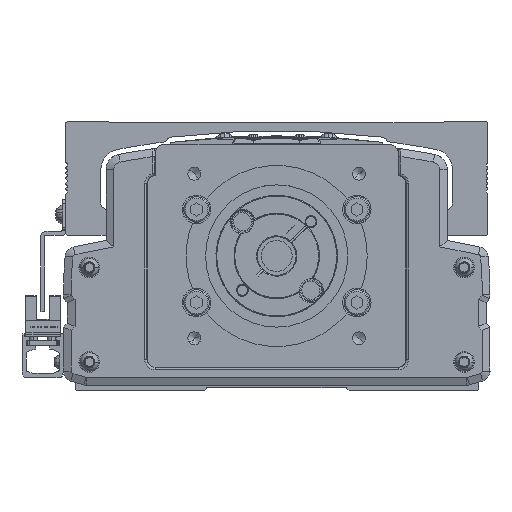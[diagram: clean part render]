
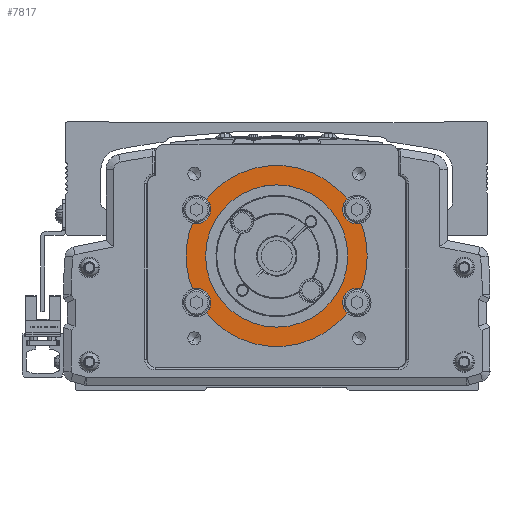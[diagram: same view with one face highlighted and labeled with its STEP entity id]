
A CAD part, front view. The second image highlights one B-rep face of the part: STEP entity #7817.
In plain terms, the highlighted planar face has unit normal (0, -1, 0).
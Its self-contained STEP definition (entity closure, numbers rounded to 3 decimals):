
#7817=ADVANCED_FACE('',(#17150,#17151),#17152,.F.);
#17150=FACE_OUTER_BOUND('',#29640,.T.);
#17151=FACE_BOUND('',#29641,.T.);
#17152=PLANE('',#29642);
#29640=EDGE_LOOP('',(#53460,#53461,#53462,#53463,#53464,#53465,#53466,#53467,#53468,#53469,#53470,#53471,#53472,#53473));
#29641=EDGE_LOOP('',(#53474,#53475));
#29642=AXIS2_PLACEMENT_3D('',#53476,#53477,#53478);
#53460=ORIENTED_EDGE('',*,*,#72735,.F.);
#53461=ORIENTED_EDGE('',*,*,#77475,.T.);
#53462=ORIENTED_EDGE('',*,*,#77476,.T.);
#53463=ORIENTED_EDGE('',*,*,#77477,.F.);
#53464=ORIENTED_EDGE('',*,*,#77478,.F.);
#53465=ORIENTED_EDGE('',*,*,#77479,.T.);
#53466=ORIENTED_EDGE('',*,*,#77480,.F.);
#53467=ORIENTED_EDGE('',*,*,#77481,.F.);
#53468=ORIENTED_EDGE('',*,*,#74928,.T.);
#53469=ORIENTED_EDGE('',*,*,#72924,.T.);
#53470=ORIENTED_EDGE('',*,*,#75443,.F.);
#53471=ORIENTED_EDGE('',*,*,#71283,.F.);
#53472=ORIENTED_EDGE('',*,*,#77482,.T.);
#53473=ORIENTED_EDGE('',*,*,#77483,.F.);
#53474=ORIENTED_EDGE('',*,*,#71177,.F.);
#53475=ORIENTED_EDGE('',*,*,#77484,.F.);
#53476=CARTESIAN_POINT('',(-600.,53.222,0.));
#53477=DIRECTION('',(0.,1.0,0.));
#53478=DIRECTION('',(-1.0,0.,0.));
#71177=EDGE_CURVE('',#85734,#85730,#85736,.T.);
#71283=EDGE_CURVE('',#85916,#85918,#85919,.T.);
#72735=EDGE_CURVE('',#88300,#88302,#88303,.T.);
#72924=EDGE_CURVE('',#88601,#88605,#88607,.T.);
#74928=EDGE_CURVE('',#91726,#88601,#91727,.T.);
#75443=EDGE_CURVE('',#85918,#88605,#92502,.T.);
#77475=EDGE_CURVE('',#88300,#95339,#95340,.T.);
#77476=EDGE_CURVE('',#95339,#95341,#95342,.T.);
#77477=EDGE_CURVE('',#95343,#95341,#95344,.T.);
#77478=EDGE_CURVE('',#95345,#95343,#95346,.T.);
#77479=EDGE_CURVE('',#95345,#95347,#95348,.T.);
#77480=EDGE_CURVE('',#95349,#95347,#95350,.T.);
#77481=EDGE_CURVE('',#91726,#95349,#95351,.T.);
#77482=EDGE_CURVE('',#85916,#95352,#95353,.T.);
#77483=EDGE_CURVE('',#88302,#95352,#95354,.T.);
#77484=EDGE_CURVE('',#85730,#85734,#95355,.T.);
#85730=VERTEX_POINT('',#106029);
#85734=VERTEX_POINT('',#106034);
#85736=CIRCLE('',#106037,27.5);
#85916=VERTEX_POINT('',#106376);
#85918=VERTEX_POINT('',#106379);
#85919=CIRCLE('',#106380,5.5);
#88300=VERTEX_POINT('',#109694);
#88302=VERTEX_POINT('',#109697);
#88303=CIRCLE('',#109698,5.5);
#88601=VERTEX_POINT('',#110091);
#88605=VERTEX_POINT('',#110096);
#88607=CIRCLE('',#110099,35.0);
#91726=VERTEX_POINT('',#114619);
#91727=CIRCLE('',#114620,35.0);
#92502=CIRCLE('',#115935,5.5);
#95339=VERTEX_POINT('',#120172);
#95340=CIRCLE('',#120173,35.0);
#95341=VERTEX_POINT('',#120174);
#95342=CIRCLE('',#120175,35.0);
#95343=VERTEX_POINT('',#120176);
#95344=CIRCLE('',#120177,5.5);
#95345=VERTEX_POINT('',#120178);
#95346=CIRCLE('',#120179,5.5);
#95347=VERTEX_POINT('',#120180);
#95348=CIRCLE('',#120181,35.0);
#95349=VERTEX_POINT('',#120182);
#95350=CIRCLE('',#120183,5.5);
#95351=CIRCLE('',#120184,5.5);
#95352=VERTEX_POINT('',#120185);
#95353=CIRCLE('',#120186,35.0);
#95354=CIRCLE('',#120187,5.5);
#95355=CIRCLE('',#120188,27.5);
#106029=CARTESIAN_POINT('',(-627.5,53.222,0.));
#106034=CARTESIAN_POINT('',(-572.5,53.222,0.));
#106037=AXIS2_PLACEMENT_3D('',#129600,#129601,#129602);
#106376=CARTESIAN_POINT('',(-572.777,53.222,21.998));
#106379=CARTESIAN_POINT('',(-574.5,53.222,18.));
#106380=AXIS2_PLACEMENT_3D('',#129739,#129740,#129741);
#109694=CARTESIAN_POINT('',(-632.6,53.222,12.738));
#109697=CARTESIAN_POINT('',(-625.5,53.222,18.));
#109698=AXIS2_PLACEMENT_3D('',#131665,#131666,#131667);
#110091=CARTESIAN_POINT('',(-565.,53.222,0.));
#110096=CARTESIAN_POINT('',(-567.4,53.222,12.738));
#110099=AXIS2_PLACEMENT_3D('',#131930,#131931,#131932);
#114619=CARTESIAN_POINT('',(-567.4,53.222,-12.738));
#114620=AXIS2_PLACEMENT_3D('',#134781,#134782,#134783);
#115935=AXIS2_PLACEMENT_3D('',#135400,#135401,#135402);
#120172=CARTESIAN_POINT('',(-635.,53.222,0.));
#120173=AXIS2_PLACEMENT_3D('',#138029,#138030,#138031);
#120174=CARTESIAN_POINT('',(-632.6,53.222,-12.738));
#120175=AXIS2_PLACEMENT_3D('',#138032,#138033,#138034);
#120176=CARTESIAN_POINT('',(-625.5,53.222,-18.));
#120177=AXIS2_PLACEMENT_3D('',#138035,#138036,#138037);
#120178=CARTESIAN_POINT('',(-627.223,53.222,-21.998));
#120179=AXIS2_PLACEMENT_3D('',#138038,#138039,#138040);
#120180=CARTESIAN_POINT('',(-572.777,53.222,-21.998));
#120181=AXIS2_PLACEMENT_3D('',#138041,#138042,#138043);
#120182=CARTESIAN_POINT('',(-574.5,53.222,-18.));
#120183=AXIS2_PLACEMENT_3D('',#138044,#138045,#138046);
#120184=AXIS2_PLACEMENT_3D('',#138047,#138048,#138049);
#120185=CARTESIAN_POINT('',(-627.223,53.222,21.998));
#120186=AXIS2_PLACEMENT_3D('',#138050,#138051,#138052);
#120187=AXIS2_PLACEMENT_3D('',#138053,#138054,#138055);
#120188=AXIS2_PLACEMENT_3D('',#138056,#138057,#138058);
#129600=CARTESIAN_POINT('',(-600.,53.222,0.));
#129601=DIRECTION('',(0.,-1.0,0.));
#129602=DIRECTION('',(-1.0,0.,0.));
#129739=CARTESIAN_POINT('',(-569.,53.222,18.));
#129740=DIRECTION('',(0.,-1.0,0.));
#129741=DIRECTION('',(1.0,0.,0.));
#131665=CARTESIAN_POINT('',(-631.,53.222,18.));
#131666=DIRECTION('',(0.,-1.0,0.));
#131667=DIRECTION('',(-1.0,0.,0.));
#131930=CARTESIAN_POINT('',(-600.,53.222,0.));
#131931=DIRECTION('',(0.,-1.0,0.));
#131932=DIRECTION('',(-1.0,0.,0.));
#134781=CARTESIAN_POINT('',(-600.,53.222,0.));
#134782=DIRECTION('',(0.,-1.0,0.));
#134783=DIRECTION('',(-1.0,0.,0.));
#135400=CARTESIAN_POINT('',(-569.,53.222,18.));
#135401=DIRECTION('',(0.,-1.0,0.));
#135402=DIRECTION('',(1.0,0.,0.));
#138029=CARTESIAN_POINT('',(-600.,53.222,0.));
#138030=DIRECTION('',(0.,-1.0,0.));
#138031=DIRECTION('',(-1.0,0.,0.));
#138032=CARTESIAN_POINT('',(-600.,53.222,0.));
#138033=DIRECTION('',(0.,-1.0,0.));
#138034=DIRECTION('',(-1.0,0.,0.));
#138035=CARTESIAN_POINT('',(-631.,53.222,-18.));
#138036=DIRECTION('',(0.,-1.0,0.));
#138037=DIRECTION('',(-1.0,0.,0.));
#138038=CARTESIAN_POINT('',(-631.,53.222,-18.));
#138039=DIRECTION('',(0.,-1.0,0.));
#138040=DIRECTION('',(-1.0,0.,0.));
#138041=CARTESIAN_POINT('',(-600.,53.222,0.));
#138042=DIRECTION('',(0.,-1.0,0.));
#138043=DIRECTION('',(-1.0,0.,0.));
#138044=CARTESIAN_POINT('',(-569.,53.222,-18.));
#138045=DIRECTION('',(0.,-1.0,0.));
#138046=DIRECTION('',(1.0,0.,0.));
#138047=CARTESIAN_POINT('',(-569.,53.222,-18.));
#138048=DIRECTION('',(0.,-1.0,0.));
#138049=DIRECTION('',(1.0,0.,0.));
#138050=CARTESIAN_POINT('',(-600.,53.222,0.));
#138051=DIRECTION('',(0.,-1.0,0.));
#138052=DIRECTION('',(-1.0,0.,0.));
#138053=CARTESIAN_POINT('',(-631.,53.222,18.));
#138054=DIRECTION('',(0.,-1.0,0.));
#138055=DIRECTION('',(-1.0,0.,0.));
#138056=CARTESIAN_POINT('',(-600.,53.222,0.));
#138057=DIRECTION('',(0.,-1.0,0.));
#138058=DIRECTION('',(-1.0,0.,0.));
